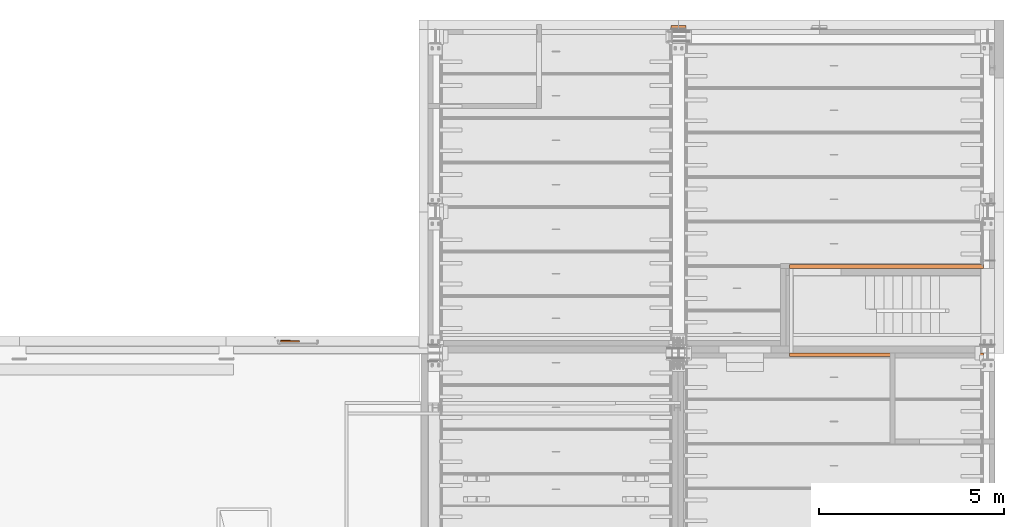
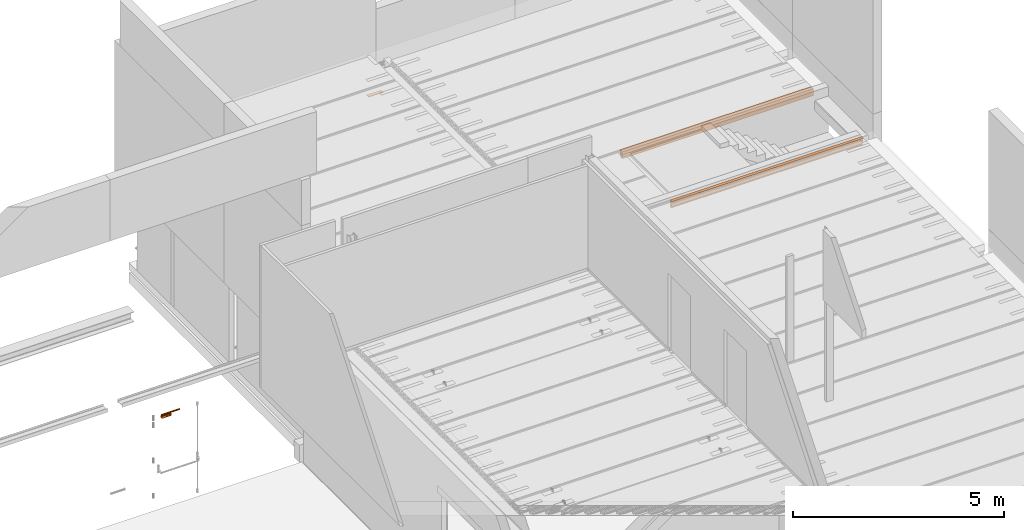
# One storey, part 214 of 230: 4 proxies.
"""IFC4X3_ADD2 building model written with IfcOpenShell, lengths in millimetres."""

import ifcopenshell
import ifcopenshell.guid

model = None  # the IFC model being written
_history = None  # IfcOwnerHistory: only IFC2X3 demands one
_inside = {}  # id of a spatial element -> (the spatial element, [elements in it])
_under = {}  # id of a project, library or spatial element -> (it, [spatial elements below it])
_declared = {}  # id of a project -> (the project, [libraries it declares])
_typed = {}  # id of a type object -> (the type object, [elements of that type])
_made_of = {}  # id of a material, layer set ... -> (it, [elements and type objects made of it])


def new_model(schema):
    """Start an empty IFC model of exactly this schema.

    Asked for "IFC4X3", IfcOpenShell would pick the latest addendum, in which some entities
    have other attributes; the version numbers below select the first issue.
    IFC2X3 requires an IfcOwnerHistory on every rooted entity: one is made here for all.
    """
    global model, _history
    if schema == "IFC4X3":
        model = ifcopenshell.file(schema_version=(4, 3, 0, 0))
    else:
        model = ifcopenshell.file(schema=schema)
    _inside.clear()
    _under.clear()
    _declared.clear()
    _typed.clear()
    _made_of.clear()
    _history = None
    if model.schema == "IFC2X3":
        org = make("IfcOrganization", Name="unknown")
        user = make(
            "IfcPersonAndOrganization",
            ThePerson=make("IfcPerson", FamilyName="unknown"),
            TheOrganization=org,
        )
        app = make(
            "IfcApplication",
            ApplicationDeveloper=org,
            Version="unknown",
            ApplicationFullName="unknown",
            ApplicationIdentifier="unknown",
        )
        _history = make(
            "IfcOwnerHistory",
            OwningUser=user,
            OwningApplication=app,
            ChangeAction="ADDED",
            CreationDate=0,
        )
    return model


def make(cls, **values):
    """One entity of the class cls with the attributes given. An attribute that is None is left unset."""
    return model.create_entity(
        cls, **{name: value for name, value in values.items() if value is not None}
    )


def rooted(cls, **values):
    """An entity with a GlobalId (a new one), such as an element, a storey or a relation."""
    return make(cls, GlobalId=ifcopenshell.guid.new(), OwnerHistory=_history, **values)


def si_unit(unit_type, name, prefix=None):
    """IfcSIUnit, for example si_unit("LENGTHUNIT", "METRE", prefix="MILLI")."""
    return make("IfcSIUnit", UnitType=unit_type, Prefix=prefix, Name=name)


def assignment(units):
    """IfcUnitAssignment: the units of a project."""
    return None if units is None else make("IfcUnitAssignment", Units=units)


def point(xyz):
    """IfcCartesianPoint."""
    return None if xyz is None else make("IfcCartesianPoint", Coordinates=xyz)


def direction(xyz):
    """IfcDirection."""
    return None if xyz is None else make("IfcDirection", DirectionRatios=xyz)


def frame(location, z_axis=None, x_axis=None):
    """IfcAxis2Placement3D, a coordinate frame: its origin and axes. An axis left out is left unset."""
    return make(
        "IfcAxis2Placement3D",
        Location=point(location),
        Axis=direction(z_axis),
        RefDirection=direction(x_axis),
    )


def frame_2d(location, x_axis=None):
    """IfcAxis2Placement2D, a coordinate frame in the plane: its origin and x axis."""
    return make(
        "IfcAxis2Placement2D", Location=point(location), RefDirection=direction(x_axis)
    )


def origin_with_axes():
    """The frame at (0, 0, 0) with the z axis (0, 0, 1) and the x axis (1, 0, 0) written out."""
    return frame((0.0, 0.0, 0.0), z_axis=(0.0, 0.0, 1.0), x_axis=(1.0, 0.0, 0.0))


def place(relative_to, where):
    """IfcLocalPlacement: puts the frame where relative to a parent placement (None: the world)."""
    return make(
        "IfcLocalPlacement", PlacementRelTo=relative_to, RelativePlacement=where
    )


def context(
    kind, dimensions, precision=None, world=None, true_north=None, identifier=None
):
    """IfcGeometricRepresentationContext, for example the 3D "Model" context."""
    return make(
        "IfcGeometricRepresentationContext",
        ContextIdentifier=identifier,
        ContextType=kind,
        CoordinateSpaceDimension=dimensions,
        Precision=precision,
        WorldCoordinateSystem=world,
        TrueNorth=true_north,
    )


def subcontext(parent, identifier, kind, view, scale=None):
    """IfcGeometricRepresentationSubContext, for example "Body" below "Model"."""
    return make(
        "IfcGeometricRepresentationSubContext",
        ContextIdentifier=identifier,
        ContextType=kind,
        ParentContext=parent,
        TargetScale=scale,
        TargetView=view,
    )


def project(units=None, contexts=None):
    """IfcProject with its units and contexts."""
    return rooted(
        "IfcProject",
        Name="project",
        RepresentationContexts=contexts,
        UnitsInContext=assignment(units),
    )


def spatial(cls, under=None, at=None, **own):
    """A site, building, storey or space (cls), placed at a placement, below another one or the project."""
    s = rooted(cls, ObjectPlacement=at, **own)
    if under is not None:
        _under.setdefault(under.id(), (under, []))[1].append(s)
    return s


def polyline(points):
    """IfcPolyline through the points."""
    return make("IfcPolyline", Points=[point(p) for p in points])


def circle_curve(where, radius):
    """IfcCircle in the frame where."""
    return make("IfcCircle", Position=where, Radius=radius)


def trimmed(basis, trim1, trim2, sense, master):
    """IfcTrimmedCurve: the piece of a basis curve between two trims."""
    return make(
        "IfcTrimmedCurve",
        BasisCurve=basis,
        Trim1=trim1,
        Trim2=trim2,
        SenseAgreement=sense,
        MasterRepresentation=master,
    )


def segment(curve, same_sense, transition):
    """IfcCompositeCurveSegment."""
    return make(
        "IfcCompositeCurveSegment",
        Transition=transition,
        SameSense=same_sense,
        ParentCurve=curve,
    )


def composite_curve(segments, self_intersect=None):
    """IfcCompositeCurve: segments joined end to end."""
    return make("IfcCompositeCurve", Segments=segments, SelfIntersect=self_intersect)


def profile(cls, at=None, kind="AREA", **sizes):
    """A parametric profile (cls). Its sizes go by their IFC names, for example OverallWidth=200.0."""
    return make(cls, ProfileType=kind, Position=at, **sizes)


def rectangle(**sizes):
    """IfcRectangleProfileDef."""
    return profile("IfcRectangleProfileDef", **sizes)


def circle(**sizes):
    """IfcCircleProfileDef."""
    return profile("IfcCircleProfileDef", **sizes)


def outline(outer, holes=None, kind="AREA"):
    """IfcArbitraryClosedProfileDef: a profile drawn as a closed curve; with holes, ...WithVoids."""
    if holes is None:
        return make("IfcArbitraryClosedProfileDef", ProfileType=kind, OuterCurve=outer)
    return make(
        "IfcArbitraryProfileDefWithVoids",
        ProfileType=kind,
        OuterCurve=outer,
        InnerCurves=holes,
    )


def extrude(swept, where, along, depth):
    """IfcExtrudedAreaSolid: the profile swept, set in the frame where, extruded along a direction by depth."""
    return make(
        "IfcExtrudedAreaSolid",
        SweptArea=swept,
        Position=where,
        ExtrudedDirection=direction(along),
        Depth=depth,
    )


def shape(context_of_items, identifier, shape_type, items):
    """IfcShapeRepresentation: the items that make up one representation, for example the "Body"."""
    return make(
        "IfcShapeRepresentation",
        ContextOfItems=context_of_items,
        RepresentationIdentifier=identifier,
        RepresentationType=shape_type,
        Items=items,
    )


def source(mapping_origin, context_of_items, identifier, shape_type, items):
    """IfcRepresentationMap: a shape defined once, which mapped items show again and again."""
    return make(
        "IfcRepresentationMap",
        MappingOrigin=mapping_origin,
        MappedRepresentation=shape(context_of_items, identifier, shape_type, items),
    )


def transform(
    local_origin,
    x_axis=None,
    y_axis=None,
    z_axis=None,
    scale=None,
    scale2=None,
    scale3=None,
    uniform=True,
):
    """IfcCartesianTransformationOperator3D, or its non-uniform kind. x_axis, y_axis, z_axis: its Axis1, 2, 3."""
    if uniform:
        return make(
            "IfcCartesianTransformationOperator3D",
            Axis1=direction(x_axis),
            Axis2=direction(y_axis),
            LocalOrigin=point(local_origin),
            Scale=scale,
            Axis3=direction(z_axis),
        )
    return make(
        "IfcCartesianTransformationOperator3DnonUniform",
        Axis1=direction(x_axis),
        Axis2=direction(y_axis),
        LocalOrigin=point(local_origin),
        Scale=scale,
        Axis3=direction(z_axis),
        Scale2=scale2,
        Scale3=scale3,
    )


def mapped(mapping_source, mapping_target):
    """IfcMappedItem: shows the shape of a source again, moved by a transform."""
    return make(
        "IfcMappedItem", MappingSource=mapping_source, MappingTarget=mapping_target
    )


def material(Name=None, Category=None):
    """IfcMaterial."""
    return make("IfcMaterial", Name=Name, Category=Category)


def made_of(thing, what):
    """Note that an element or type object is made of a material, layer set ...; save() writes the relation."""
    if what is not None:
        _made_of.setdefault(what.id(), (what, []))[1].append(thing)
    return thing


def type_object(cls, material=None, **own):
    """A type object (cls), such as IfcWallType, which elements share."""
    return made_of(rooted(cls, **own), material)


def type_shapes(of_type, sources):
    """Give a type object the sources (RepresentationMaps) that its elements show as mapped items."""
    of_type.RepresentationMaps = sources


def element(
    cls,
    number,
    at=None,
    inside=None,
    cuts=None,
    type_object=None,
    material=None,
    context=None,
    identifier="Body",
    shape_type=None,
    held_by="IfcProductDefinitionShape",
    body=None,
    shapes=None,
    **own,
):
    """One element of the class cls, such as IfcWall. Its Tag is "e" and its number.

    at: its placement. inside: the storey or other place that contains it. cuts: it is an
    opening in that element (IfcRelVoidsElement). A single representation is given by context,
    identifier, shape_type and body (its items); several are given by shapes. held_by: the class
    of the entity that holds the representations. save() writes the other relations.
    """
    e = rooted(cls, Tag="e%d" % number, ObjectPlacement=at, **own)
    if body is not None:
        shapes = [shape(context, identifier, shape_type, body)]
    if shapes is not None:
        e.Representation = make(held_by, Representations=shapes)
    if inside is not None:
        _inside.setdefault(inside.id(), (inside, []))[1].append(e)
    if cuts is not None:
        rooted(
            "IfcRelVoidsElement", RelatingBuildingElement=cuts, RelatedOpeningElement=e
        )
    if type_object is not None:
        _typed.setdefault(type_object.id(), (type_object, []))[1].append(e)
    return made_of(e, material)


def aggregate(whole, parts):
    """IfcRelAggregates: a whole, such as a stair, and the parts it consists of."""
    return rooted("IfcRelAggregates", RelatingObject=whole, RelatedObjects=parts)


def save(model, path):
    """Write the relations noted so far, then the file.

    IfcRelAggregates (storeys below a building ...), IfcRelContainedInSpatialStructure (elements
    in a storey), IfcRelDefinesByType, IfcRelAssociatesMaterial and IfcRelDeclares: one each for
    every whole, place, type object, material and project.
    """
    for whole, parts in _under.values():
        aggregate(whole, parts)
    for where, things in _inside.values():
        rooted(
            "IfcRelContainedInSpatialStructure",
            RelatedElements=things,
            RelatingStructure=where,
        )
    for kind, things in _typed.values():
        rooted("IfcRelDefinesByType", RelatedObjects=things, RelatingType=kind)
    for what, things in _made_of.values():
        rooted("IfcRelAssociatesMaterial", RelatedObjects=things, RelatingMaterial=what)
    for by, libraries in _declared.values():
        rooted("IfcRelDeclares", RelatingContext=by, RelatedDefinitions=libraries)
    model.write(path)


model = new_model("IFC4X3_ADD2")

# Units and contexts
model_context = context("Model", 3, precision=1e-05, world=origin_with_axes(), true_north=direction((0.0, 1.0)))
body_context = subcontext(model_context, "Body", "Model", "MODEL_VIEW")
ifc_project = project(units=[si_unit("LENGTHUNIT", "METRE", prefix="MILLI"), si_unit("AREAUNIT", "SQUARE_METRE"), si_unit("VOLUMEUNIT", "CUBIC_METRE"), si_unit("PLANEANGLEUNIT", "RADIAN"), si_unit("TIMEUNIT", "SECOND"), si_unit("MASSUNIT", "GRAM")], contexts=[model_context])

# Site, building, storey
site_placement = place(None, origin_with_axes())
site = spatial("IfcSite", under=ifc_project, at=site_placement, Name="Site", CompositionType="ELEMENT")
building_placement = place(site_placement, origin_with_axes())
building = spatial("IfcBuilding", under=site, at=building_placement, Name="IFC Building Story")
storey_placement = place(building_placement, origin_with_axes())
storey = spatial("IfcBuildingStorey", under=building, at=storey_placement, Name="ETAGE 00 (0)", Elevation=0.0)

# Proxies
ifc_material_1 = material(Name="BS_28_Métal")
building_element_proxy_type_1 = type_object("IfcBuildingElementProxyType", Name="Console métal4_Console métal", PredefinedType="NOTDEFINED")
shared_shape_1 = source(origin_with_axes(), body_context, "Body", "SweptSolid", [
    extrude(rectangle(XDim=400.0000000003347, YDim=100.0, at=frame_2d((0.0, 5.95523630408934e-12), x_axis=(1.0, 0.0))), frame((39961.6894781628, 26600.0, 2985.0), z_axis=(0.0, 0.0, 1.0), x_axis=(1.0, 0.0, 0.0)), (0.0, 0.0, 1.0), 14.99999999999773),
])
type_shapes(building_element_proxy_type_1, [shared_shape_1])
proxy_1_placement = place(storey_placement, origin_with_axes())
element("IfcBuildingElementProxy", 1, at=proxy_1_placement, inside=storey, type_object=building_element_proxy_type_1, material=ifc_material_1, Name="Console métal4:Console métal", ObjectType="Console métal4:Console métal", context=body_context, shape_type="MappedRepresentation", body=[
    mapped(shared_shape_1, transform((0.0, 0.0, 0.0))),
])
ifc_material_2 = material(Name="BS_28_Ossature en béton armé - Eléments coulé sur place")
building_element_proxy_type_2 = type_object("IfcBuildingElementProxyType", Name="Ossature 3_Ossature 3", PredefinedType="NOTDEFINED")
shared_shape_2 = source(origin_with_axes(), body_context, "Body", "SweptSolid", [
    extrude(outline(polyline([(94.42148823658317, -31.4129894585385), (79.42425772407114, -16.12427634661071), (54.42147913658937, -15.64296065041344), (45.45827769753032, -22.83161659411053), (34.22648836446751, -25.25291019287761), (23.09762758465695, -22.39560165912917), (14.42147913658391, -14.86299238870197), (-60.57852086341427, -13.41298018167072), (-75.57852086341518, 6.587019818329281), (-92.57852086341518, 6.587019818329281), (-105.5785117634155, -4.412972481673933), (-105.5785117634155, 76.58763015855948), (94.42148823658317, 76.58763015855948), (94.42148823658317, -31.4129894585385)])), frame((42962.18900000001, 20166.587630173, 4105.57851176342), z_axis=(1.0, 0.0, 0.0), x_axis=(0.0, 0.0, 1.0)), (0.0, 0.0, 1.0), 5233.999999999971),
])
type_shapes(building_element_proxy_type_2, [shared_shape_2])
proxy_2_placement = place(storey_placement, origin_with_axes())
element("IfcBuildingElementProxy", 2, at=proxy_2_placement, inside=storey, type_object=building_element_proxy_type_2, material=ifc_material_2, Name="Ossature 3:Ossature 3", ObjectType="Ossature 3:Ossature 3", context=body_context, shape_type="MappedRepresentation", body=[
    mapped(shared_shape_2, transform((0.0, 0.0, 0.0))),
])
building_element_proxy_type_3 = type_object("IfcBuildingElementProxyType", Name="Ossature 5_Ossature 3", PredefinedType="NOTDEFINED")
shared_shape_3 = source(origin_with_axes(), body_context, "Body", "SweptSolid", [
    extrude(outline(polyline([(79.42425492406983, 13.04725782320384), (94.42149453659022, 28.33598021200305), (94.42149453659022, -59.66402906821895), (-105.5785054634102, -59.66402906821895), (-105.5785054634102, 1.335946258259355), (-92.57852366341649, -9.664038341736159), (-75.57852366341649, -9.664038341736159), (-60.57852366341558, 10.33596165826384), (14.4214763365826, 11.78597386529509), (23.09762478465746, 19.31858313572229), (34.22648556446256, 22.17589166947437), (45.45827489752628, 19.75459807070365), (54.42147633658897, 12.56594212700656), (79.42425492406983, 13.04725782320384)])), frame((42962.18900000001, 17750.3359709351, 4105.57850546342), z_axis=(1.0, 0.0, 0.0), x_axis=(0.0, 0.0, 1.0)), (0.0, 0.0, 1.0), 5234.000000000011),
])
type_shapes(building_element_proxy_type_3, [shared_shape_3])
proxy_3_placement = place(storey_placement, origin_with_axes())
element("IfcBuildingElementProxy", 3, at=proxy_3_placement, inside=storey, type_object=building_element_proxy_type_3, material=ifc_material_2, Name="Ossature 5:Ossature 3", ObjectType="Ossature 5:Ossature 3", context=body_context, shape_type="MappedRepresentation", body=[
    mapped(shared_shape_3, transform((0.0, 0.0, 0.0))),
])
building_element_proxy_type_4 = type_object("IfcBuildingElementProxyType", Name="ASSA ABLOY BE_Door Closers_Cam-Motion®_ASSA ABLOY_DC500 3D_DC500", PredefinedType="NOTDEFINED")
shared_shape_4 = source(origin_with_axes(), body_context, "Body", "SweptSolid", [
    extrude(circle(Radius=11.0, at=frame_2d((0.0, 5.95523630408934e-12), x_axis=(-0.9999746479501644, 0.007120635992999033))), frame((88.5000000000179, -6.64999999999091, 28.4999999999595), z_axis=(0.0, 1.0, 0.0), x_axis=(1.0, 0.0, 0.0)), (0.0, 0.0, 1.0), 13.65),
    extrude(circle(Radius=11.0, at=frame_2d((0.0, 5.95523630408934e-12), x_axis=(-0.9999746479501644, 0.007120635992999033))), frame((465.8228604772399, 2.00000000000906, 30.9320340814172), z_axis=(0.0, 1.0, 0.0), x_axis=(1.0, 0.0, 0.0)), (0.0, 0.0, 1.0), 7.84999999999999),
    extrude(outline(composite_curve([segment(trimmed(circle_curve(frame_2d((-188.0743888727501, 1.275536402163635), x_axis=(1.0, 0.0)), 11.0), [point((-188.1452879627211, -9.724235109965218))], [point((-187.9960621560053, 12.27525753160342))], True, "CARTESIAN"), True, "CONTINUOUS"), segment(polyline([(-187.9960621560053, 12.27525753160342), (186.9712055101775, 9.605196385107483)]), True, "CONTINUOUS"), segment(trimmed(circle_curve(frame_2d((189.2484716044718, -1.156497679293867), x_axis=(1.0, 0.0)), 10.9999999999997), [point((186.9712055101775, 9.605196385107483))], [point((189.1701446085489, -12.15621880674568))], True, "CARTESIAN"), True, "CONTINUOUS"), segment(polyline([(189.1701446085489, -12.15621880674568), (-188.1452879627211, -9.724235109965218)]), True, "CONTINUOUS")], self_intersect=False)), frame((276.5743888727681, 2.00000000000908, 29.7755364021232), z_axis=(0.0, 1.0, 0.0), x_axis=(1.0, 0.0, 0.0)), (0.0, 0.0, 1.0), 5.0),
    extrude(rectangle(XDim=268.0, YDim=45.0, at=frame_2d((0.0, 5.95523630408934e-12), x_axis=(1.0, 0.0))), frame((135.000000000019, -38.6500000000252, 0.0), z_axis=(0.0, 0.0, 1.0), x_axis=(1.0, 0.0, 0.0)), (0.0, 0.0, 1.0), 56.0),
    extrude(outline(composite_curve([segment(polyline([(42.0, -32.0), (-14.9999999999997, -32.0)]), True, "CONTINUOUS"), segment(polyline([(-14.9999999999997, -32.0), (-14.9999999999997, -15.0)]), True, "CONTINUOUS"), segment(polyline([(-14.9999999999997, -15.0), (0.0, -15.0)]), True, "CONTINUOUS"), segment(trimmed(circle_curve(frame_2d((0.0, 5.95523630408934e-12), x_axis=(1.0, 0.0)), 15.0), [point((0.0, -15.0))], [point((14.79019945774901, -2.500000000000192))], True, "CARTESIAN"), True, "CONTINUOUS"), segment(polyline([(14.79019945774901, -2.500000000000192), (42.0, -2.500000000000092)]), True, "CONTINUOUS"), segment(polyline([(42.0, -2.500000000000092), (42.0, -32.0)]), True, "CONTINUOUS")], self_intersect=False)), frame((0.0, -38.65000000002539, 14.9999999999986), z_axis=(1.0, 0.0, 0.0), x_axis=(0.0, 0.0, 1.0)), (0.0, 0.0, 1.0), 270.000000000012),
    extrude(outline(composite_curve([segment(polyline([(42.0, 2.499999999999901), (14.79019945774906, 2.499999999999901)]), True, "CONTINUOUS"), segment(trimmed(circle_curve(frame_2d((0.0, 5.95523630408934e-12), x_axis=(1.0, 0.0)), 15.0), [point((14.79019945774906, 2.499999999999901))], [point((0.0, 14.99999999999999))], True, "CARTESIAN"), True, "CONTINUOUS"), segment(polyline([(0.0, 14.99999999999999), (-14.9999999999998, 14.99999999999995)]), True, "CONTINUOUS"), segment(polyline([(-14.9999999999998, 14.99999999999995), (-14.9999999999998, 31.9999999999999)]), True, "CONTINUOUS"), segment(polyline([(-14.9999999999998, 31.9999999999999), (42.0, 31.9999999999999)]), True, "CONTINUOUS"), segment(polyline([(42.0, 31.9999999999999), (42.0, 2.499999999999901)]), True, "CONTINUOUS")], self_intersect=False)), frame((0.0, -38.65000000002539, 14.9999999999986), z_axis=(1.0, 0.0, 0.0), x_axis=(0.0, 0.0, 1.0)), (0.0, 0.0, 1.0), 270.000000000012),
    extrude(outline(composite_curve([segment(polyline([(0.0, -12.0), (-14.99999999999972, -12.0)]), True, "CONTINUOUS"), segment(polyline([(-14.99999999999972, -12.0), (-14.99999999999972, 12.0)]), True, "CONTINUOUS"), segment(polyline([(-14.99999999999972, 12.0), (0.0, 12.0)]), True, "CONTINUOUS"), segment(trimmed(circle_curve(frame_2d((0.0, 5.95523630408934e-12), x_axis=(1.0, 0.0)), 12.0), [point((0.0, 12.0))], [point((0.0, -12.0))], False, "CARTESIAN"), True, "CONTINUOUS")], self_intersect=False)), frame((0.0, -38.65000000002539, 14.9999999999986), z_axis=(1.0, 0.0, 0.0), x_axis=(0.0, 0.0, 1.0)), (0.0, 0.0, 1.0), 270.000000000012),
    extrude(rectangle(XDim=505.0, YDim=23.0, at=frame_2d((0.0, 5.95523630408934e-12), x_axis=(1.0, 0.0))), frame((251.000000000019, 21.3499999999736, 11.9999999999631), z_axis=(0.0, 0.0, 1.0), x_axis=(1.0, 0.0, 0.0)), (0.0, 0.0, 1.0), 39.0),
])
type_shapes(building_element_proxy_type_4, [shared_shape_4])
proxy_4_placement = place(storey_placement, frame((29222.1894781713, 18158.2500013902, 2575.3), z_axis=(0.0, -1.0, 0.0), x_axis=(1.0, 0.0, 0.0)))
element("IfcBuildingElementProxy", 4, at=proxy_4_placement, inside=storey, type_object=building_element_proxy_type_4, Name="ASSA ABLOY BE_Door Closers_Cam-Motion®_ASSA ABLOY_DC500 3D:DC500", ObjectType="ASSA ABLOY BE_Door Closers_Cam-Motion®_ASSA ABLOY_DC500 3D:DC500", context=body_context, shape_type="MappedRepresentation", body=[
    mapped(shared_shape_4, transform((0.0, 0.0, 0.0))),
])

save(model, "model.ifc")
